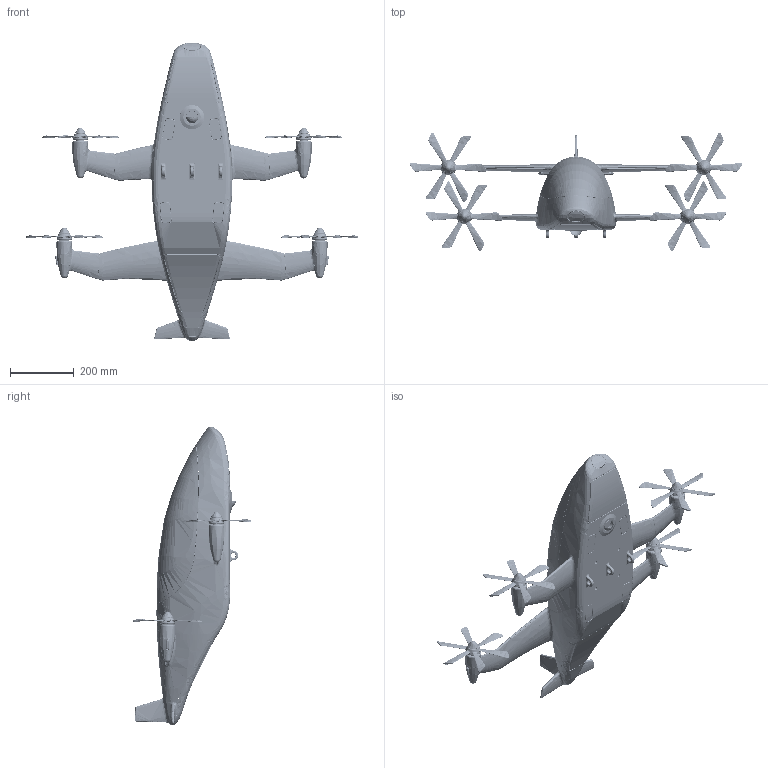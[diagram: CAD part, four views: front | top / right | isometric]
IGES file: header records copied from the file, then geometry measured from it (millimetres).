
Start section: SolidWorks IGES file using analytic representation for surfaces
Global section: file name: D:\All About Works\Freelance\Maya\CADcrowd.com\Flying Fish UAV\Flying Fish UAV.IGS; native system: SolidWorks 2014; preprocessor: SolidWorks 2014; author: Ridwan; date: 150623.090840; units: millimetre
Bounding box: 1039.99 x 372.71 x 935.98 mm (x, y, z)
Surface area: 1897336.6 mm2 (no closed solid volume)
Topology: 0 solids, 0 shells, 2284 faces, 35400 edges, 35305 vertices
Faces by surface type: bspline 1789, revolution 495
